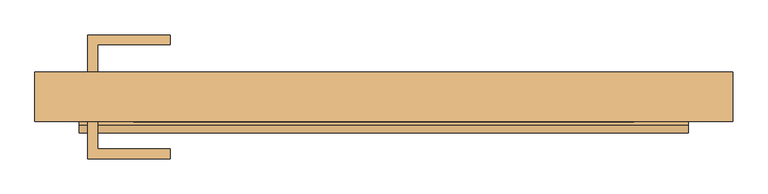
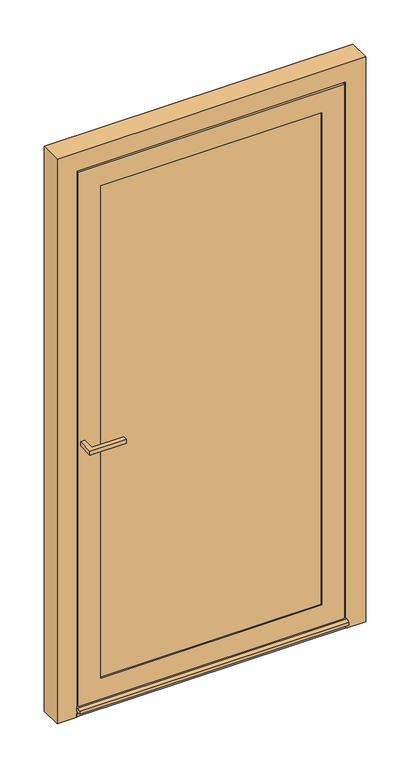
"""IFC4 building model written with IfcOpenShell, lengths in millimetres: door geometry, Reynaers_MasterLine 8_Door_Miter_Inward Opening_Single Vent : Reynaers_MasterLine 8_Door_Miter_Inward Opening_Single Vent."""

from ifc_helpers import new_model, si_unit, point, frame, frame_2d, origin, place, context, project, spatial, polyline, circle_curve, trimmed, segment, composite_curve, outline, extrude, faceted_brep, source, transform, mapped, element, save


def door_9f9e6a1d(model_context):
    return source(origin(), model_context, "Body", "SolidModel", [
        extrude(outline(polyline([(-458.0, -131.2), (-443.0, -131.2), (-443.0, -173.7), (-330.5, -173.7), (-330.5, -188.7), (-458.0, -188.7), (-458.0, -131.2)])), frame((0.0, 0.0, 1000.0), z_axis=(0.0, 0.0, 1.0), x_axis=(1.0, 0.0, 0.0)), (0.0, 0.0, 1.0), 15.0),
        extrude(outline(polyline([(-458.0, -54.2), (-458.0, 3.3), (-330.5, 3.3), (-330.5, -11.7), (-443.0, -11.7), (-443.0, -54.2), (-458.0, -54.2)])), frame((0.0, 0.0, 1000.0), z_axis=(0.0, 0.0, 1.0), x_axis=(1.0, 0.0, 0.0)), (0.0, 0.0, 1.0), 15.0),
        extrude(outline(polyline([(1964.0, 414.0), (1964.0, -414.0), (88.0, -414.0), (88.0, 414.0), (1964.0, 414.0)]), holes=[polyline([(1939.0, -389.0), (1939.0, 389.0), (113.0, 389.0), (113.0, -389.0), (1939.0, -389.0)])]), frame((0.0, -92.2, 0.0), z_axis=(0.0, 1.0, 0.0), x_axis=(0.0, 0.0, 1.0)), (0.0, 0.0, 1.0), 38.0),
        faceted_brep([(-471.5, -127.4, 0.0), (-471.5, -131.2, 0.0), (-540.0, -131.2, 0.0), (-540.0, -54.2, 0.0), (-497.5, -54.2, 0.0), (-497.5, -63.0, 0.0), (-486.5, -63.0, 0.0), (-486.5, -127.4, 0.0), (-486.5, -127.4, 2036.5), (486.5, -127.4, 2036.5), (486.5, -127.4, 0.0), (471.5, -127.4, 0.0), (471.5, -127.4, 2021.5), (-471.5, -127.4, 2021.5), (-540.0, -131.2, 2090.0), (-540.0, -54.2, 2090.0), (-471.5, -131.2, 2021.5), (471.5, -131.2, 2021.5), (471.5, -131.2, 0.0), (540.0, -131.2, 0.0), (540.0, -131.2, 2090.0), (540.0, -54.2, 2090.0), (486.5, -63.0, 0.0), (497.5, -63.0, 0.0), (497.5, -54.2, 0.0), (540.0, -54.2, 0.0), (-486.5, -63.0, 2036.5), (497.5, -54.2, 2047.5), (-497.5, -54.2, 2047.5), (486.5, -63.0, 2036.5), (-497.5, -63.0, 2047.5), (497.5, -63.0, 2047.5)], [[[0, 1, 2, 3, 4, 5, 6, 7]], [[7, 8, 9, 10, 11, 12, 13, 0]], [[2, 14, 15, 3]], [[1, 16, 17, 18, 19, 20, 14, 2]], [[0, 13, 16, 1]], [[14, 20, 21, 15]], [[13, 12, 17, 16]], [[11, 10, 22, 23, 24, 25, 19, 18]], [[20, 19, 25, 21]], [[12, 11, 18, 17]], [[6, 26, 8, 7]], [[3, 15, 21, 25, 24, 27, 28, 4]], [[26, 29, 9, 8]], [[29, 22, 10, 9]], [[5, 30, 31, 23, 22, 29, 26, 6]], [[4, 28, 30, 5]], [[28, 27, 31, 30]], [[27, 24, 23, 31]]]),
        extrude(outline(composite_curve([segment(polyline([(-54.2, 2.3), (-54.2, 1.0), (-131.4999853, 1.0), (-131.4999853, 13.7484538), (-124.1645993, 18.8847463)]), True, "CONTINUOUS"), segment(trimmed(circle_curve(frame_2d((-121.1881466, 20.5016353)), 3.3872704), [point((-124.1645993, 18.8847463))], [point((-124.4249457, 21.5))], False, "CARTESIAN"), True, "CONTINUOUS"), segment(polyline([(-124.4249457, 21.5), (-148.5001177, 21.5), (-148.5001177, 32.5), (-136.1364693, 37.0), (-122.4, 37.0), (-122.4, 26.0), (-110.7, 26.0), (-110.7, 18.8954051), (-106.5071436, 12.0), (-63.0, 12.0), (-63.0, 3.0699002), (-54.2, 2.3)]), True, "CONTINUOUS")], self_intersect=False)), frame((-471.5, 0.0, 0.0), z_axis=(1.0, 0.0, 0.0), x_axis=(0.0, 1.0, 0.0)), (0.0, 0.0, 1.0), 943.0),
        faceted_brep([(-414.0, -54.2, 1964.0), (414.0, -54.2, 1964.0), (414.0, -127.2, 1964.0), (-414.0, -127.2, 1964.0), (-491.5, -58.0, 2041.5), (491.5, -58.0, 2041.5), (491.5, -54.2, 2041.5), (-491.5, -54.2, 2041.5), (414.0, -54.2, 88.0), (414.0, -127.2, 88.0), (491.5, -58.0, 10.5), (491.5, -54.2, 10.5), (-414.0, -54.2, 88.0), (-414.0, -127.2, 88.0), (-491.5, -58.0, 10.5), (-491.5, -54.2, 10.5), (-476.5, -58.0, 2026.5), (476.5, -58.0, 2026.5), (476.5, -58.0, 25.5), (-476.5, -58.0, 25.5), (-476.5, -122.4, 2026.5), (476.5, -122.4, 2026.5), (-465.5, -131.2, 2015.5), (465.5, -131.2, 2015.5), (465.5, -122.4, 2015.5), (-465.5, -122.4, 2015.5), (-387.0, -127.2, 1937.0), (387.0, -127.2, 1937.0), (387.0, -131.2, 1937.0), (-387.0, -131.2, 1937.0), (476.5, -122.4, 25.5), (465.5, -131.2, 36.5), (465.5, -122.4, 36.5), (387.0, -127.2, 115.0), (387.0, -131.2, 115.0), (-476.5, -122.4, 25.5), (-465.5, -131.2, 36.5), (-465.5, -122.4, 36.5), (-387.0, -127.2, 115.0), (-387.0, -131.2, 115.0)], [[[0, 1, 2, 3]], [[4, 5, 6, 7]], [[1, 8, 9, 2]], [[5, 10, 11, 6]], [[8, 12, 13, 9]], [[10, 14, 15, 11]], [[12, 0, 3, 13]], [[7, 6, 11, 15], [1, 0, 12, 8]], [[14, 4, 7, 15]], [[5, 4, 14, 10], [16, 17, 18, 19]], [[20, 21, 17, 16]], [[22, 23, 24, 25]], [[26, 27, 28, 29]], [[21, 30, 18, 17]], [[23, 31, 32, 24]], [[27, 33, 34, 28]], [[30, 35, 19, 18]], [[31, 36, 37, 32]], [[33, 38, 39, 34]], [[35, 20, 16, 19]], [[21, 20, 35, 30], [25, 24, 32, 37]], [[36, 22, 25, 37]], [[23, 22, 36, 31], [29, 28, 34, 39]], [[38, 26, 29, 39]], [[3, 2, 9, 13], [27, 26, 38, 33]]]),
        extrude(outline(polyline([(406.0, -96.2), (406.0, -123.2), (-406.0, -123.2), (-406.0, -96.2), (406.0, -96.2)])), frame((0.0, 0.0, 96.0), z_axis=(0.0, 0.0, 1.0), x_axis=(1.0, 0.0, 0.0)), (0.0, 0.0, 1.0), 1860.0),
    ])


if __name__ == "__main__":
    model = new_model("IFC4")
    model_context = context("Model", 3, world=origin())
    ifc_project = project(units=[si_unit("LENGTHUNIT", "METRE", prefix="MILLI")], contexts=[model_context])
    site = spatial("IfcSite", under=ifc_project)
    building = spatial("IfcBuilding", under=site)
    placement = place(None, origin())
    door_shape = door_9f9e6a1d(model_context)
    element("IfcDoor", 1, ObjectType="Reynaers_MasterLine 8_Door_Miter_Inward Opening_Single Vent : Reynaers_MasterLine 8_Door_Miter_Inward Opening_Single Vent", at=placement, inside=building, context=model_context, shape_type="MappedRepresentation", body=[
        mapped(door_shape, transform((0.0, 0.0, 0.0), x_axis=(1.0, 0.0, 0.0), y_axis=(0.0, 1.0, 0.0), z_axis=(0.0, 0.0, 1.0))),
    ])
    save(model, "model.ifc")
